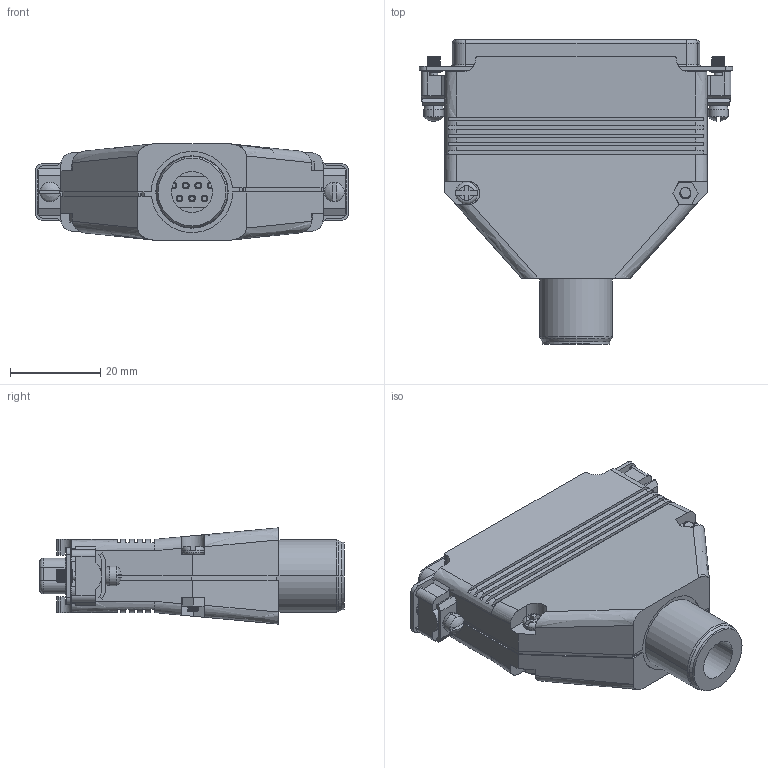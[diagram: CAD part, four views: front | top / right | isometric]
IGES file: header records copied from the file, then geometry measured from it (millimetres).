
Start section:  PTC IGES file: cu_tb-37f-37sc.igs
Global section: file name: cu_tb-37f-37sc.igs; native system: Pro/ENGINEER by Parametric Technology Corporation; preprocessor: 2011490; author: dkendric; organization: Unknown; date: 20130306.123638; units: inch
Bounding box: 69.32 x 67.31 x 21.3 mm (x, y, z)
Surface area: 23034.8 mm2 (no closed solid volume)
Topology: 0 solids, 0 shells, 1262 faces, 6380 edges, 6380 vertices
Faces by surface type: revolution 680, bspline 582
